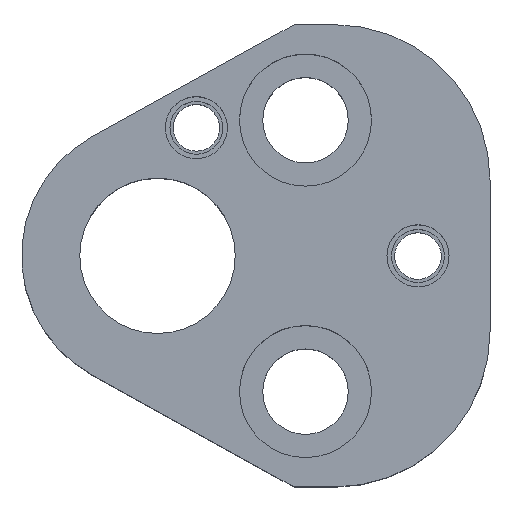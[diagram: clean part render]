
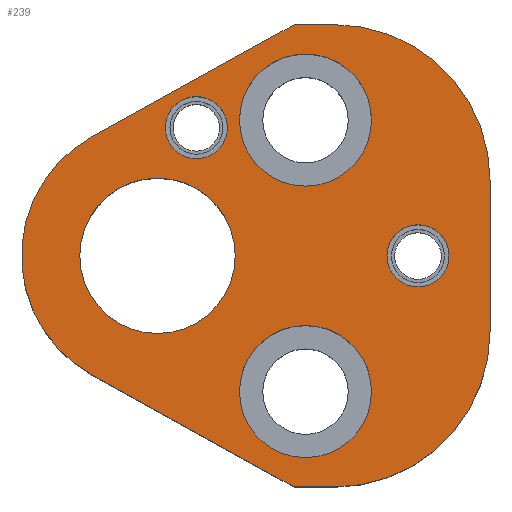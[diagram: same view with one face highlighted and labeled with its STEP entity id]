
A CAD part, top view. The second image highlights one B-rep face of the part: STEP entity #239.
In plain terms, the highlighted planar face has unit normal (0, 0, 1).
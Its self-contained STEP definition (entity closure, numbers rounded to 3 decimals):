
#113=FACE_BOUND('',#339,.T.);
#114=FACE_BOUND('',#340,.T.);
#115=FACE_BOUND('',#341,.T.);
#116=FACE_BOUND('',#342,.T.);
#117=FACE_BOUND('',#343,.T.);
#118=FACE_BOUND('',#344,.T.);
#152=CIRCLE('',#816,20.);
#154=CIRCLE('',#820,20.);
#157=CIRCLE('',#826,17.5);
#182=CIRCLE('',#865,4.);
#184=CIRCLE('',#868,4.);
#186=CIRCLE('',#872,4.);
#188=CIRCLE('',#875,4.);
#194=CIRCLE('',#887,8.5);
#195=CIRCLE('',#888,8.5);
#196=CIRCLE('',#889,8.5);
#197=CIRCLE('',#890,8.5);
#198=CIRCLE('',#891,10.);
#199=CIRCLE('',#892,10.);
#239=ADVANCED_FACE('',(#113,#114,#115,#116,#117,#118),#261,.T.);
#261=PLANE('',#893);
#339=EDGE_LOOP('',(#497,#498,#499,#500,#501,#502,#503,#504));
#340=EDGE_LOOP('',(#505,#506));
#341=EDGE_LOOP('',(#507,#508));
#342=EDGE_LOOP('',(#509,#510));
#343=EDGE_LOOP('',(#511,#512));
#344=EDGE_LOOP('',(#513,#514));
#497=ORIENTED_EDGE('',*,*,#626,.T.);
#498=ORIENTED_EDGE('',*,*,#630,.T.);
#499=ORIENTED_EDGE('',*,*,#633,.T.);
#500=ORIENTED_EDGE('',*,*,#636,.T.);
#501=ORIENTED_EDGE('',*,*,#639,.T.);
#502=ORIENTED_EDGE('',*,*,#642,.T.);
#503=ORIENTED_EDGE('',*,*,#645,.T.);
#504=ORIENTED_EDGE('',*,*,#648,.T.);
#505=ORIENTED_EDGE('',*,*,#703,.F.);
#506=ORIENTED_EDGE('',*,*,#704,.F.);
#507=ORIENTED_EDGE('',*,*,#705,.F.);
#508=ORIENTED_EDGE('',*,*,#706,.F.);
#509=ORIENTED_EDGE('',*,*,#693,.F.);
#510=ORIENTED_EDGE('',*,*,#689,.F.);
#511=ORIENTED_EDGE('',*,*,#687,.F.);
#512=ORIENTED_EDGE('',*,*,#683,.F.);
#513=ORIENTED_EDGE('',*,*,#707,.T.);
#514=ORIENTED_EDGE('',*,*,#708,.T.);
#560=VERTEX_POINT('',#1160);
#561=VERTEX_POINT('',#1162);
#564=VERTEX_POINT('',#1169);
#566=VERTEX_POINT('',#1175);
#568=VERTEX_POINT('',#1181);
#570=VERTEX_POINT('',#1187);
#572=VERTEX_POINT('',#1193);
#574=VERTEX_POINT('',#1199);
#599=VERTEX_POINT('',#1278);
#600=VERTEX_POINT('',#1279);
#603=VERTEX_POINT('',#1291);
#604=VERTEX_POINT('',#1292);
#611=VERTEX_POINT('',#1320);
#612=VERTEX_POINT('',#1321);
#613=VERTEX_POINT('',#1324);
#614=VERTEX_POINT('',#1325);
#615=VERTEX_POINT('',#1328);
#616=VERTEX_POINT('',#1329);
#626=EDGE_CURVE('',#561,#560,#726,.T.);
#630=EDGE_CURVE('',#560,#564,#730,.T.);
#633=EDGE_CURVE('',#564,#566,#152,.T.);
#636=EDGE_CURVE('',#566,#568,#734,.T.);
#639=EDGE_CURVE('',#568,#570,#154,.T.);
#642=EDGE_CURVE('',#570,#572,#738,.T.);
#645=EDGE_CURVE('',#572,#574,#741,.T.);
#648=EDGE_CURVE('',#574,#561,#157,.T.);
#683=EDGE_CURVE('',#599,#600,#182,.T.);
#687=EDGE_CURVE('',#600,#599,#184,.T.);
#689=EDGE_CURVE('',#603,#604,#186,.T.);
#693=EDGE_CURVE('',#604,#603,#188,.T.);
#703=EDGE_CURVE('',#611,#612,#194,.T.);
#704=EDGE_CURVE('',#612,#611,#195,.T.);
#705=EDGE_CURVE('',#613,#614,#196,.T.);
#706=EDGE_CURVE('',#614,#613,#197,.T.);
#707=EDGE_CURVE('',#615,#616,#198,.T.);
#708=EDGE_CURVE('',#616,#615,#199,.T.);
#726=LINE('',#1161,#770);
#730=LINE('',#1170,#774);
#734=LINE('',#1182,#778);
#738=LINE('',#1194,#782);
#741=LINE('',#1200,#785);
#770=VECTOR('',#916,1.);
#774=VECTOR('',#922,1.);
#778=VECTOR('',#934,1.);
#782=VECTOR('',#946,1.);
#785=VECTOR('',#951,1.);
#816=AXIS2_PLACEMENT_3D('',#1176,#927,#928);
#820=AXIS2_PLACEMENT_3D('',#1188,#939,#940);
#826=AXIS2_PLACEMENT_3D('',#1204,#957,#958);
#865=AXIS2_PLACEMENT_3D('',#1277,#1045,#1046);
#868=AXIS2_PLACEMENT_3D('',#1286,#1053,#1054);
#872=AXIS2_PLACEMENT_3D('',#1290,#1061,#1062);
#875=AXIS2_PLACEMENT_3D('',#1299,#1069,#1070);
#887=AXIS2_PLACEMENT_3D('',#1319,#1097,#1098);
#888=AXIS2_PLACEMENT_3D('',#1322,#1099,#1100);
#889=AXIS2_PLACEMENT_3D('',#1323,#1101,#1102);
#890=AXIS2_PLACEMENT_3D('',#1326,#1103,#1104);
#891=AXIS2_PLACEMENT_3D('',#1327,#1105,#1106);
#892=AXIS2_PLACEMENT_3D('',#1330,#1107,#1108);
#893=AXIS2_PLACEMENT_3D('',#1331,#1109,#1110);
#916=DIRECTION('',(0.875,-0.485,0.));
#922=DIRECTION('',(1.,0.,0.));
#927=DIRECTION('',(0.,0.,1.));
#928=DIRECTION('',(-0.707,0.707,0.));
#934=DIRECTION('',(0.,1.,0.));
#939=DIRECTION('',(0.,0.,1.));
#940=DIRECTION('',(-0.707,-0.707,0.));
#946=DIRECTION('',(-1.,0.,0.));
#951=DIRECTION('',(-0.875,-0.485,0.));
#957=DIRECTION('',(0.,0.,1.));
#958=DIRECTION('',(1.,0.,0.));
#1045=DIRECTION('',(0.,0.,1.));
#1046=DIRECTION('',(-1.,0.,0.));
#1053=DIRECTION('',(0.,0.,1.));
#1054=DIRECTION('',(1.,0.,0.));
#1061=DIRECTION('',(0.,0.,1.));
#1062=DIRECTION('',(-1.,0.,0.));
#1069=DIRECTION('',(0.,0.,1.));
#1070=DIRECTION('',(1.,0.,0.));
#1097=DIRECTION('',(0.,0.,1.));
#1098=DIRECTION('',(1.,0.,0.));
#1099=DIRECTION('',(0.,0.,1.));
#1100=DIRECTION('',(-1.,0.,0.));
#1101=DIRECTION('',(0.,0.,1.));
#1102=DIRECTION('',(1.,0.,0.));
#1103=DIRECTION('',(0.,0.,1.));
#1104=DIRECTION('',(-1.,0.,0.));
#1105=DIRECTION('',(0.,0.,-1.));
#1106=DIRECTION('',(-1.,0.,0.));
#1107=DIRECTION('',(0.,0.,-1.));
#1108=DIRECTION('',(1.,0.,0.));
#1109=DIRECTION('',(0.,0.,1.));
#1110=DIRECTION('',(-0.875,0.485,0.));
#1160=CARTESIAN_POINT('',(17.574,-29.75,25.));
#1161=CARTESIAN_POINT('',(17.574,-29.75,25.));
#1162=CARTESIAN_POINT('',(-8.484,-15.306,25.));
#1169=CARTESIAN_POINT('',(22.8,-29.75,25.));
#1170=CARTESIAN_POINT('',(17.574,-29.75,25.));
#1175=CARTESIAN_POINT('',(42.8,-9.75,25.));
#1176=CARTESIAN_POINT('',(22.8,-9.75,25.));
#1181=CARTESIAN_POINT('',(42.8,9.75,25.));
#1182=CARTESIAN_POINT('',(42.8,9.75,25.));
#1187=CARTESIAN_POINT('',(22.8,29.75,25.));
#1188=CARTESIAN_POINT('',(22.8,9.75,25.));
#1193=CARTESIAN_POINT('',(17.574,29.75,25.));
#1194=CARTESIAN_POINT('',(17.574,29.75,25.));
#1199=CARTESIAN_POINT('',(-8.484,15.306,25.));
#1200=CARTESIAN_POINT('',(17.574,29.75,25.));
#1204=CARTESIAN_POINT('',(0.,0.,25.));
#1277=CARTESIAN_POINT('',(5.,16.5,25.));
#1278=CARTESIAN_POINT('',(5.,12.5,25.));
#1279=CARTESIAN_POINT('',(5.,20.5,25.));
#1286=CARTESIAN_POINT('',(5.,16.5,25.));
#1290=CARTESIAN_POINT('',(33.53,0.,25.));
#1291=CARTESIAN_POINT('',(33.53,-4.,25.));
#1292=CARTESIAN_POINT('',(33.53,4.,25.));
#1299=CARTESIAN_POINT('',(33.53,0.,25.));
#1319=CARTESIAN_POINT('',(19.05,17.47,25.));
#1320=CARTESIAN_POINT('',(19.05,25.97,25.));
#1321=CARTESIAN_POINT('',(19.05,8.97,25.));
#1322=CARTESIAN_POINT('',(19.05,17.47,25.));
#1323=CARTESIAN_POINT('',(19.05,-17.47,25.));
#1324=CARTESIAN_POINT('',(19.05,-8.97,25.));
#1325=CARTESIAN_POINT('',(19.05,-25.97,25.));
#1326=CARTESIAN_POINT('',(19.05,-17.47,25.));
#1327=CARTESIAN_POINT('',(0.,0.,25.));
#1328=CARTESIAN_POINT('',(0.,10.,25.));
#1329=CARTESIAN_POINT('',(0.,-10.,25.));
#1330=CARTESIAN_POINT('',(0.,0.,25.));
#1331=CARTESIAN_POINT('',(-8.484,-15.306,25.));
